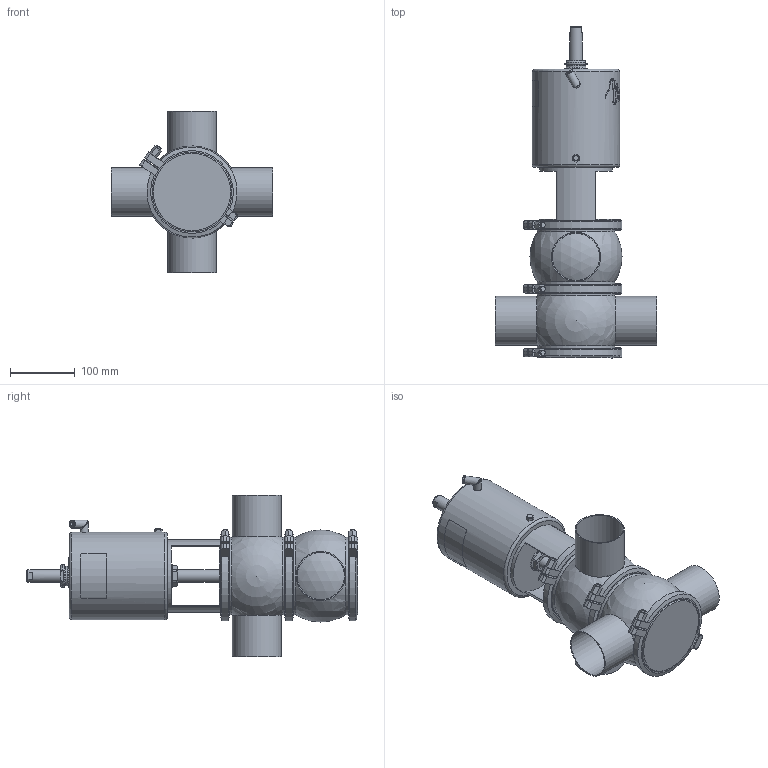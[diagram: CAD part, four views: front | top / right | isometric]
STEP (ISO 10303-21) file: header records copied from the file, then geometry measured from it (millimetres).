
FILE_DESCRIPTION (( 'STEP AP214' ), '1' );
FILE_NAME ('INNOVA M C W OD 3 T3 AS NC_10.241.16.0007.STEP', '2024-08-07T12:42:41', ( '' ), ( '' ), 'SwSTEP 2.0', 'SolidWorks 2023', '' );
FILE_SCHEMA (( 'AUTOMOTIVE_DESIGN' ));
Length unit declared in the file: millimetre
Products named in the file (6): 10.240.15.0007_OD 3"; 10.241.15.0001_DIN 080; 10.240.15.0010_DN 080; 10.240.15.0001_DN 080; INNOVA M C W OD 3 T3 AS NC_10.241.16.0007; 10.240.15.0014_T3 AS P180
Assembly tree (8 placements, depth 2):
  INNOVA M C W OD 3 T3 AS NC_10.241.16.0007
    10.240.15.0007_OD 3"  x2
    10.240.15.0010_DN 080
    10.240.15.0014_T3 AS P180
    10.240.15.0001_DN 080  x3
    10.241.15.0001_DIN 080
Bounding box: 250 x 514.63 x 250 mm (x, y, z)
Volume: 5534402.6 mm3; surface area: 542662.7 mm2
Topology: 9 solids, 9 shells, 467 faces, 1227 edges, 801 vertices
Faces by surface type: plane 227, cylinder 114, bspline 80, cone 36, sphere 6, torus 4
Full cylindrical faces by diameter (mm): 6.15 x1, 8 x7, 8.5 x1, 10.5 x1, 12.5 x3, 16 x1, 20 x2, 31 x1, 34.5 x2, 36.5 x1, 72.9 x4, 76.2 x4, 113 x1, 120 x5, 132 x6, 136 x1
Entity records: 20460 total; most frequent: CARTESIAN_POINT 11283, ORIENTED_EDGE 1600, DIRECTION 1221, EDGE_CURVE 800, VERTEX_POINT 551, AXIS2_PLACEMENT_3D 466, EDGE_LOOP 407, FACE_OUTER_BOUND 366
